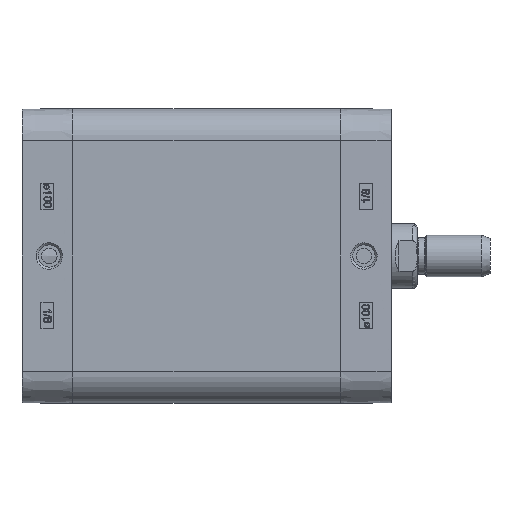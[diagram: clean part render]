
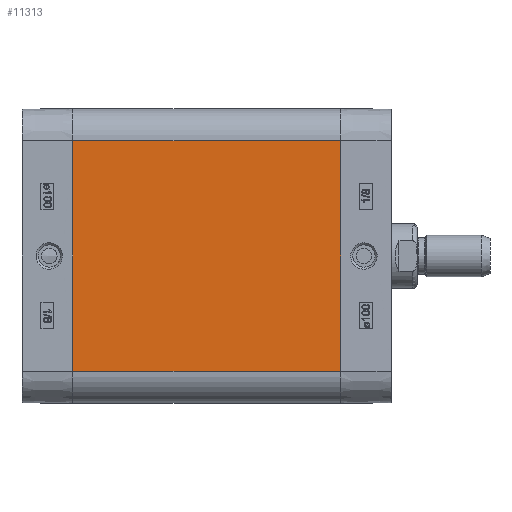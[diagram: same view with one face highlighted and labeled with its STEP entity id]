
A CAD part, left-side view. The second image highlights one B-rep face of the part: STEP entity #11313.
In plain terms, the highlighted planar face has unit normal (-1, 0, 0).
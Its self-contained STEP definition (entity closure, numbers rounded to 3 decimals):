
#5678=CARTESIAN_POINT('',(-56.65,-103.0,44.4));
#5679=VERTEX_POINT('',#5678);
#5686=CARTESIAN_POINT('',(-56.65,-103.0,-44.4));
#5687=VERTEX_POINT('',#5686);
#5688=CARTESIAN_POINT('',(-56.65,-103.0,-44.4));
#5689=DIRECTION('',(0.0,0.0,1.0));
#5690=VECTOR('',#5689,88.8);
#5691=LINE('',#5688,#5690);
#5692=EDGE_CURVE('',#5687,#5679,#5691,.T.);
#11271=CARTESIAN_POINT('',(-56.65,0.0,-44.4));
#11272=VERTEX_POINT('',#11271);
#11273=CARTESIAN_POINT('',(-56.65,0.0,-44.4));
#11274=DIRECTION('',(0.0,-1.0,0.0));
#11275=VECTOR('',#11274,103.0);
#11276=LINE('',#11273,#11275);
#11277=EDGE_CURVE('',#11272,#5687,#11276,.T.);
#11290=CARTESIAN_POINT('',(-56.65,0.0,-44.4));
#11291=DIRECTION('',(-1.0,0.0,0.0));
#11292=DIRECTION('',(0.0,0.0,1.0));
#11293=AXIS2_PLACEMENT_3D('',#11290,#11291,#11292);
#11294=PLANE('',#11293);
#11295=ORIENTED_EDGE('',*,*,#5692,.T.);
#11296=CARTESIAN_POINT('',(-56.65,0.0,44.4));
#11297=VERTEX_POINT('',#11296);
#11298=CARTESIAN_POINT('',(-56.65,0.0,44.4));
#11299=DIRECTION('',(0.0,-1.0,0.0));
#11300=VECTOR('',#11299,103.0);
#11301=LINE('',#11298,#11300);
#11302=EDGE_CURVE('',#11297,#5679,#11301,.T.);
#11303=ORIENTED_EDGE('',*,*,#11302,.F.);
#11304=CARTESIAN_POINT('',(-56.65,0.0,-44.4));
#11305=DIRECTION('',(0.0,0.0,1.0));
#11306=VECTOR('',#11305,88.8);
#11307=LINE('',#11304,#11306);
#11308=EDGE_CURVE('',#11272,#11297,#11307,.T.);
#11309=ORIENTED_EDGE('',*,*,#11308,.F.);
#11310=ORIENTED_EDGE('',*,*,#11277,.T.);
#11311=EDGE_LOOP('',(#11295,#11303,#11309,#11310));
#11312=FACE_OUTER_BOUND('',#11311,.T.);
#11313=ADVANCED_FACE('',(#11312),#11294,.T.);
